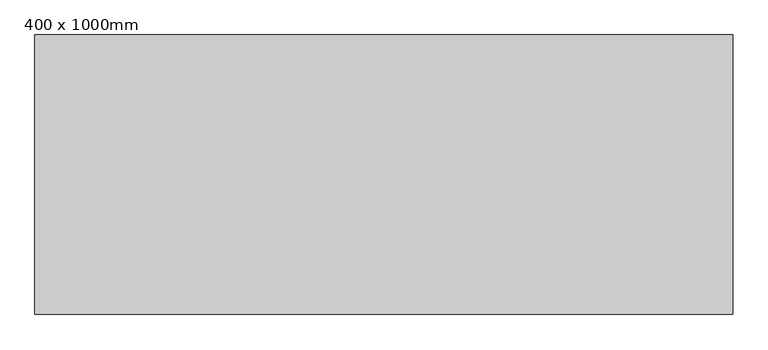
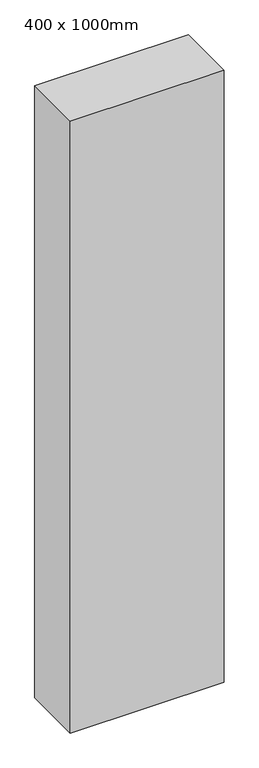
"""IFC4 building model written with IfcOpenShell, lengths in millimetres: column geometry, 矩形柱 : 400 x 1000mm."""

from ifc_helpers import new_model, si_unit, frame, origin, place, context, project, spatial, polyline, outline, extrude, source, transform, mapped, element, save


def column_400_x_1000mm_52ad20a6(model_context):
    return source(origin(), model_context, "Body", "SweptSolid", [
        extrude(outline(polyline([(500.0, 200.0), (500.0, -200.0), (-500.0, -200.0), (-500.0, 200.0), (500.0, 200.0)])), frame((0.0, 0.0, 8400.0), z_axis=(0.0, 0.0, 1.0), x_axis=(1.0, 0.0, 0.0)), (0.0, 0.0, 1.0), 4200.0),
    ])


if __name__ == "__main__":
    model = new_model("IFC4")
    model_context = context("Model", 3, world=origin())
    ifc_project = project(units=[si_unit("LENGTHUNIT", "METRE", prefix="MILLI")], contexts=[model_context])
    site = spatial("IfcSite", under=ifc_project)
    building = spatial("IfcBuilding", under=site)
    placement = place(None, origin())
    column_400_x_1000mm_shape = column_400_x_1000mm_52ad20a6(model_context)
    element("IfcColumn", 1, ObjectType="矩形柱 : 400 x 1000mm", at=placement, inside=building, context=model_context, shape_type="MappedRepresentation", body=[
        mapped(column_400_x_1000mm_shape, transform((0.0, 0.0, 0.0), x_axis=(1.0, 0.0, 0.0), y_axis=(0.0, 1.0, 0.0), z_axis=(0.0, 0.0, 1.0))),
    ])
    save(model, "model.ifc")
